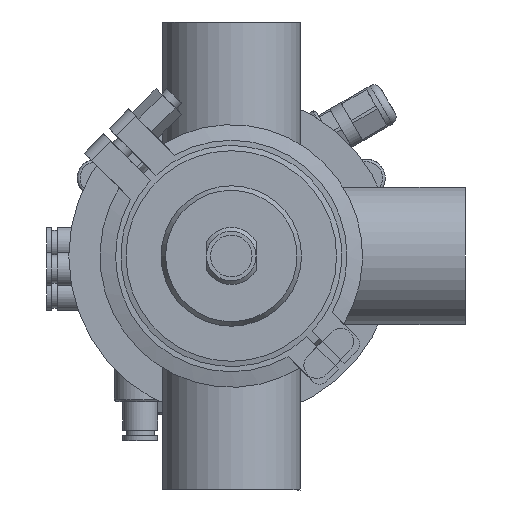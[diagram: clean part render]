
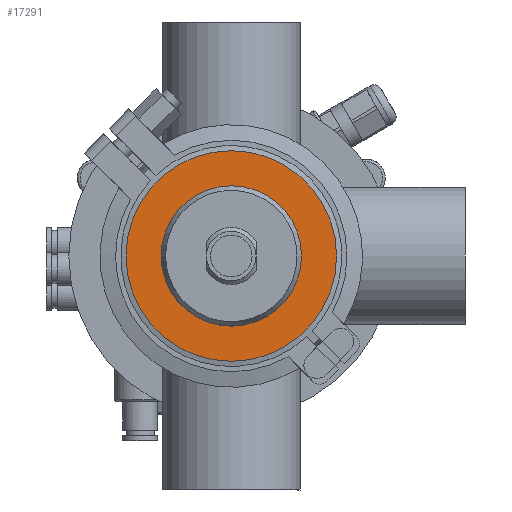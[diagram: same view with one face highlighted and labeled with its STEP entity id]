
A CAD part, front view. The second image highlights one B-rep face of the part: STEP entity #17291.
In plain terms, the highlighted planar face has unit normal (0, -1, 0).
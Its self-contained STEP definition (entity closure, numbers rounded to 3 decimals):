
#2357 = DIRECTION ( 'NONE',  ( 0., 0., -1. ) ) ;
#9780 = CARTESIAN_POINT ( 'NONE',  ( 0., -13., 27. ) ) ;
#10103 = CARTESIAN_POINT ( 'NONE',  ( 0., -13., 0. ) ) ;
#11036 = CARTESIAN_POINT ( 'NONE',  ( 0., -13., 0. ) ) ;
#13730 = ORIENTED_EDGE ( 'NONE', *, *, #42334, .T. ) ;
#14838 = DIRECTION ( 'NONE',  ( 0., 0., 1. ) ) ;
#16378 = VERTEX_POINT ( 'NONE', #49620 ) ;
#16386 = DIRECTION ( 'NONE',  ( 0., 0., 1. ) ) ;
#17291 = ADVANCED_FACE ( 'NONE', ( #50419, #54886 ), #40215, .T. ) ;
#24464 = ORIENTED_EDGE ( 'NONE', *, *, #46236, .F. ) ;
#30915 = EDGE_LOOP ( 'NONE', ( #13730 ) ) ;
#34346 = CIRCLE ( 'NONE', #52560, 27. ) ;
#40215 = PLANE ( 'NONE',  #62065 ) ;
#42334 = EDGE_CURVE ( 'NONE', #48684, #48684, #34346, .T. ) ;
#43253 = DIRECTION ( 'NONE',  ( 0., 1., 0. ) ) ;
#45318 = CARTESIAN_POINT ( 'NONE',  ( -40.5, -13., 0. ) ) ;
#45363 = CIRCLE ( 'NONE', #49397, 40.5 ) ;
#46236 = EDGE_CURVE ( 'NONE', #16378, #16378, #45363, .T. ) ;
#48684 = VERTEX_POINT ( 'NONE', #9780 ) ;
#49397 = AXIS2_PLACEMENT_3D ( 'NONE', #11036, #59774, #16386 ) ;
#49620 = CARTESIAN_POINT ( 'NONE',  ( 0., -13., 40.5 ) ) ;
#50419 = FACE_BOUND ( 'NONE', #30915, .T. ) ;
#52280 = EDGE_LOOP ( 'NONE', ( #24464 ) ) ;
#52560 = AXIS2_PLACEMENT_3D ( 'NONE', #10103, #43253, #14838 ) ;
#54886 = FACE_OUTER_BOUND ( 'NONE', #52280, .T. ) ;
#59601 = DIRECTION ( 'NONE',  ( 0., -1., 0. ) ) ;
#59774 = DIRECTION ( 'NONE',  ( 0., 1., 0. ) ) ;
#62065 = AXIS2_PLACEMENT_3D ( 'NONE', #45318, #59601, #2357 ) ;
